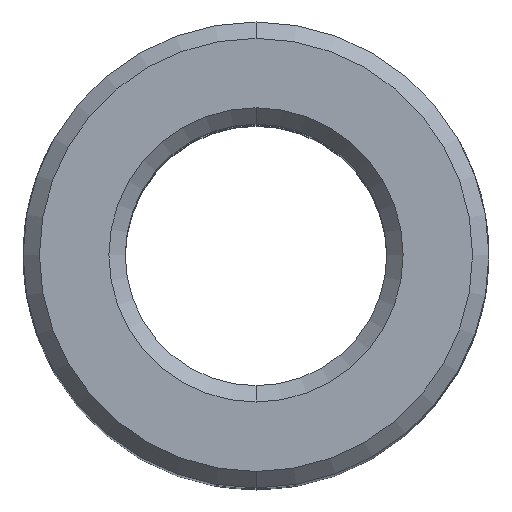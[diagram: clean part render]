
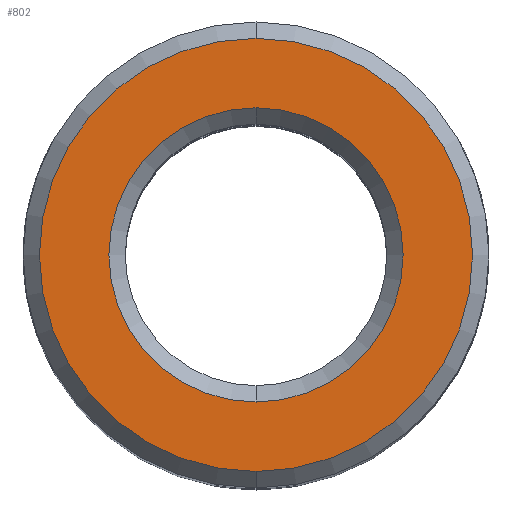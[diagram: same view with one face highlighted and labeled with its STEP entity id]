
A CAD part, top view. The second image highlights one B-rep face of the part: STEP entity #802.
In plain terms, the highlighted planar face has unit normal (0, 0, 1).
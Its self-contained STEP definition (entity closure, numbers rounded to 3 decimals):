
#17 = CIRCLE ( 'NONE', #168, 26.5 ) ;
#49 = FACE_OUTER_BOUND ( 'NONE', #379, .T. ) ;
#99 = EDGE_CURVE ( 'NONE', #376, #156, #766, .T. ) ;
#156 = VERTEX_POINT ( 'NONE', #526 ) ;
#168 = AXIS2_PLACEMENT_3D ( 'NONE', #731, #738, #741 ) ;
#187 = CARTESIAN_POINT ( 'NONE',  ( 0., 18., 0. ) ) ;
#194 = EDGE_CURVE ( 'NONE', #156, #376, #17, .T. ) ;
#228 = EDGE_CURVE ( 'NONE', #439, #719, #389, .T. ) ;
#284 = AXIS2_PLACEMENT_3D ( 'NONE', #676, #678, #682 ) ;
#287 = ORIENTED_EDGE ( 'NONE', *, *, #99, .T. ) ;
#376 = VERTEX_POINT ( 'NONE', #981 ) ;
#379 = EDGE_LOOP ( 'NONE', ( #287, #1201 ) ) ;
#389 = CIRCLE ( 'NONE', #500, 18. ) ;
#436 = ORIENTED_EDGE ( 'NONE', *, *, #1022, .T. ) ;
#439 = VERTEX_POINT ( 'NONE', #1125 ) ;
#472 = ORIENTED_EDGE ( 'NONE', *, *, #228, .T. ) ;
#480 = CARTESIAN_POINT ( 'NONE',  ( 0., 0., 0. ) ) ;
#481 = DIRECTION ( 'NONE',  ( 0., 0., 1. ) ) ;
#488 = DIRECTION ( 'NONE',  ( 0., 1., 0. ) ) ;
#500 = AXIS2_PLACEMENT_3D ( 'NONE', #801, #811, #815 ) ;
#526 = CARTESIAN_POINT ( 'NONE',  ( 0., -26.5, 0. ) ) ;
#578 = EDGE_LOOP ( 'NONE', ( #472, #436 ) ) ;
#601 = DIRECTION ( 'NONE',  ( 0., 0., -1. ) ) ;
#658 = FACE_BOUND ( 'NONE', #578, .T. ) ;
#676 = CARTESIAN_POINT ( 'NONE',  ( 0., 0., 0. ) ) ;
#678 = DIRECTION ( 'NONE',  ( 0., 0., -1. ) ) ;
#682 = DIRECTION ( 'NONE',  ( 0., 1., 0. ) ) ;
#719 = VERTEX_POINT ( 'NONE', #187 ) ;
#731 = CARTESIAN_POINT ( 'NONE',  ( 0., 0., 0. ) ) ;
#738 = DIRECTION ( 'NONE',  ( 0., 0., 1. ) ) ;
#741 = DIRECTION ( 'NONE',  ( 0., 1., 0. ) ) ;
#766 = CIRCLE ( 'NONE', #1361, 26.5 ) ;
#787 = PLANE ( 'NONE',  #866 ) ;
#801 = CARTESIAN_POINT ( 'NONE',  ( 0., 0., 0. ) ) ;
#802 = ADVANCED_FACE ( 'NONE', ( #658, #49 ), #787, .F. ) ;
#811 = DIRECTION ( 'NONE',  ( 0., 0., -1. ) ) ;
#815 = DIRECTION ( 'NONE',  ( 0., 1., 0. ) ) ;
#866 = AXIS2_PLACEMENT_3D ( 'NONE', #1170, #601, #1264 ) ;
#981 = CARTESIAN_POINT ( 'NONE',  ( 0., 26.5, 0. ) ) ;
#1022 = EDGE_CURVE ( 'NONE', #719, #439, #1211, .T. ) ;
#1125 = CARTESIAN_POINT ( 'NONE',  ( 0., -18., 0. ) ) ;
#1170 = CARTESIAN_POINT ( 'NONE',  ( 0., 16., 0. ) ) ;
#1201 = ORIENTED_EDGE ( 'NONE', *, *, #194, .T. ) ;
#1211 = CIRCLE ( 'NONE', #284, 18. ) ;
#1264 = DIRECTION ( 'NONE',  ( 0., 1., 0. ) ) ;
#1361 = AXIS2_PLACEMENT_3D ( 'NONE', #480, #481, #488 ) ;
